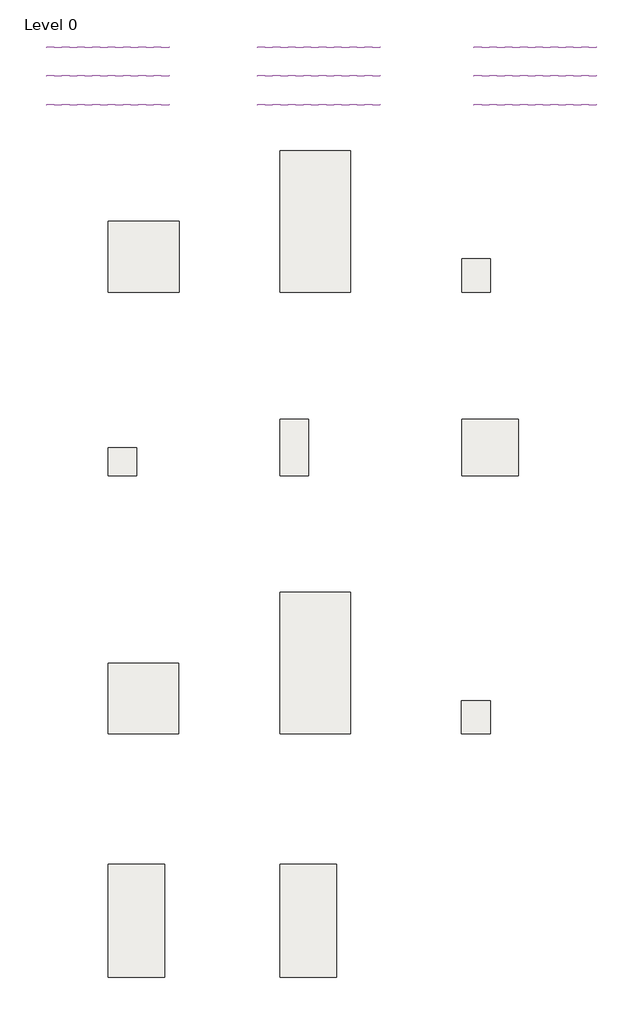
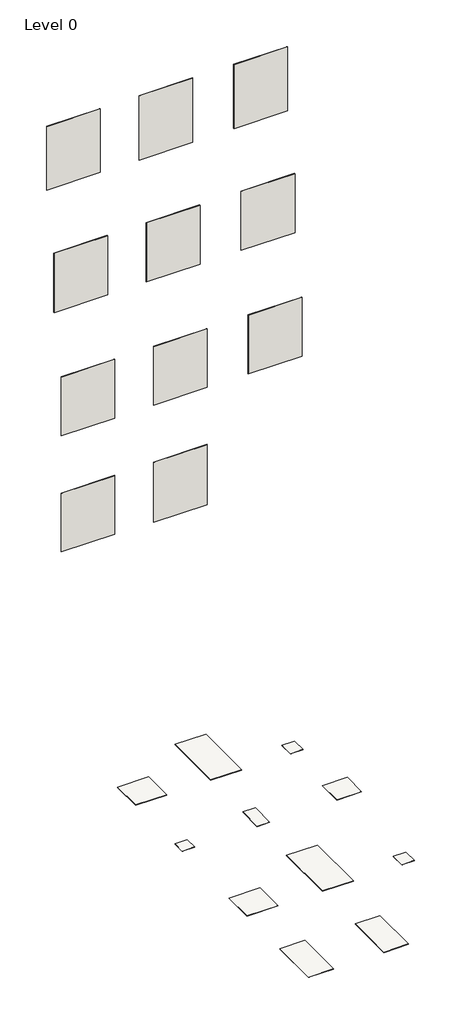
# One storey: 11 slabs, 11 walls.
"""IFC4 building model written with IfcOpenShell, lengths in millimetres."""

from ifc_helpers import new_model, si_unit, frame, origin, place, context, project, spatial, polyline, outline, extrude, element, save

model = new_model("IFC4")

# Units and contexts
model_context = context("Model", 3, world=origin())
ifc_project = project(units=[si_unit("LENGTHUNIT", "METRE", prefix="MILLI")], contexts=[model_context])

# Site, building, storey
site = spatial("IfcSite", under=ifc_project)
building = spatial("IfcBuilding", under=site)
storey = spatial("IfcBuildingStorey", under=building, Name="Level 0", Elevation=0.0)

# Slabs
placement = place(None, origin())
element("IfcSlab", 1, ObjectType="Floor_Tiles_Refin-Prestigio_Travertino-Grigio-Lucido-Mosaico-Cube 30.4x35.2 OO32", at=placement, inside=storey, context=model_context, shape_type="SweptSolid", body=[
    extrude(outline(polyline([(10631.1861419, 5891.4623743), (10631.1861419, 5539.4623743), (10327.1861419, 5539.4623743), (10327.1861419, 5891.4623743), (10631.1861419, 5891.4623743)])), frame((0.0, 0.0, -10.0), z_axis=(0.0, 0.0, 1.0), x_axis=(1.0, 0.0, 0.0)), (0.0, 0.0, 1.0), 10.0),
])
element("IfcSlab", 2, ObjectType="Floor_Tiles_Refin-Prestigio_Travertino-Grigio-Lucido-75x75 OO03", at=placement, inside=storey, context=model_context, shape_type="SweptSolid", body=[
    extrude(outline(polyline([(7324.3752062, 6289.4623743), (7324.3752062, 5539.4623743), (6574.3752062, 5539.4623743), (6574.3752062, 6289.4623743), (7324.3752062, 6289.4623743)])), frame((0.0, 0.0, -10.0), z_axis=(0.0, 0.0, 1.0), x_axis=(1.0, 0.0, 0.0)), (0.0, 0.0, 1.0), 10.0),
])
element("IfcSlab", 3, ObjectType="Floor_Tiles_Refin-Prestigio_Travertino-Grigio-Soft-60x60 OO06", at=placement, inside=storey, context=model_context, shape_type="SweptSolid", body=[
    extrude(outline(polyline([(10927.1861419, 4189.4623743), (10927.1861419, 3589.4623743), (10327.1861419, 3589.4623743), (10327.1861419, 4189.4623743), (10927.1861419, 4189.4623743)])), frame((0.0, 0.0, -10.0), z_axis=(0.0, 0.0, 1.0), x_axis=(1.0, 0.0, 0.0)), (0.0, 0.0, 1.0), 10.0),
])
element("IfcSlab", 4, ObjectType="Floor_Tiles_Refin-Prestigio_Travertino-Grigio-Soft-30x60 OO09", at=placement, inside=storey, context=model_context, shape_type="SweptSolid", body=[
    extrude(outline(polyline([(8697.3924055, 4189.4623743), (8697.3924055, 3589.4623743), (8397.3924055, 3589.4623743), (8397.3924055, 4189.4623743), (8697.3924055, 4189.4623743)])), frame((0.0, 0.0, -10.0), z_axis=(0.0, 0.0, 1.0), x_axis=(1.0, 0.0, 0.0)), (0.0, 0.0, 1.0), 10.0),
])
element("IfcSlab", 5, ObjectType="Floor_Tiles_Refin-Prestigio_Travertino-Grigio-Lucido-Mosaico-T 30x30 OO38", at=placement, inside=storey, context=model_context, shape_type="SweptSolid", body=[
    extrude(outline(polyline([(6874.3752062, 3889.4623743), (6874.3752062, 3589.4623743), (6574.3752062, 3589.4623743), (6574.3752062, 3889.4623743), (6874.3752062, 3889.4623743)])), frame((0.0, 0.0, -10.0), z_axis=(0.0, 0.0, 1.0), x_axis=(1.0, 0.0, 0.0)), (0.0, 0.0, 1.0), 10.0),
])
element("IfcSlab", 6, ObjectType="Floor_Tiles_Refin-Prestigio_Travertino-Grigio-Soft-75x75 OO00", at=placement, inside=storey, context=model_context, shape_type="SweptSolid", body=[
    extrude(outline(polyline([(7322.6009331, 1603.4367235), (7322.6009331, 853.4367235), (6572.6009331, 853.4367235), (6572.6009331, 1603.4367235), (7322.6009331, 1603.4367235)])), frame((0.0, 0.0, -10.0), z_axis=(0.0, 0.0, 1.0), x_axis=(1.0, 0.0, 0.0)), (0.0, 0.0, 1.0), 10.0),
])
element("IfcSlab", 7, ObjectType="Floor_Tiles_Refin-Prestigio_Travertino-Grigio-Soft-75x150 OM88", at=placement, inside=storey, context=model_context, shape_type="SweptSolid", body=[
    extrude(outline(polyline([(9147.3924055, 7038.4192064), (9147.3924055, 5538.4192064), (8397.3924055, 5538.4192064), (8397.3924055, 7038.4192064), (9147.3924055, 7038.4192064)])), frame((0.0, 0.0, -10.0), z_axis=(0.0, 0.0, 1.0), x_axis=(1.0, 0.0, 0.0)), (0.0, 0.0, 1.0), 10.0),
])
element("IfcSlab", 8, ObjectType="Floor_Tiles_Refin-Prestigio_Travertino-Grigio-Soft-75x150 OM85", at=placement, inside=storey, context=model_context, shape_type="SweptSolid", body=[
    extrude(outline(polyline([(9145.6181323, 2353.4367235), (9145.6181323, 853.4367235), (8395.6181323, 853.4367235), (8395.6181323, 2353.4367235), (9145.6181323, 2353.4367235)])), frame((0.0, 0.0, -10.0), z_axis=(0.0, 0.0, 1.0), x_axis=(1.0, 0.0, 0.0)), (0.0, 0.0, 1.0), 10.0),
])
element("IfcSlab", 9, ObjectType="Floor_Tiles_Refin-Prestigio_Travertino-Grigio-Soft-Mosaico-Cube 30.4x35.2 OO35", at=placement, inside=storey, context=model_context, shape_type="SweptSolid", body=[
    extrude(outline(polyline([(10629.4118688, 1205.4367235), (10629.4118688, 853.4367235), (10325.4118688, 853.4367235), (10325.4118688, 1205.4367235), (10629.4118688, 1205.4367235)])), frame((0.0, 0.0, -10.0), z_axis=(0.0, 0.0, 1.0), x_axis=(1.0, 0.0, 0.0)), (0.0, 0.0, 1.0), 10.0),
])
element("IfcSlab", 10, ObjectType="Floor_Tiles_Refin-Prestigio_Travertino-Grigio-Soft-60x120 OZ37", at=placement, inside=storey, context=model_context, shape_type="SweptSolid", body=[
    extrude(outline(polyline([(7172.6009331, -532.5889273), (7172.6009331, -1732.5889273), (6572.6009331, -1732.5889273), (6572.6009331, -532.5889273), (7172.6009331, -532.5889273)])), frame((0.0, 0.0, -10.0), z_axis=(0.0, 0.0, 1.0), x_axis=(1.0, 0.0, 0.0)), (0.0, 0.0, 1.0), 10.0),
])
element("IfcSlab", 11, ObjectType="Floor_Tiles_Refin-Prestigio_Travertino-Dorico-Grigio-60x120 RK80", at=placement, inside=storey, context=model_context, shape_type="SweptSolid", body=[
    extrude(outline(polyline([(8995.6181323, -532.5889273), (8995.6181323, -1732.5889273), (8395.6181323, -1732.5889273), (8395.6181323, -532.5889273), (8995.6181323, -532.5889273)])), frame((0.0, 0.0, -10.0), z_axis=(0.0, 0.0, 1.0), x_axis=(1.0, 0.0, 0.0)), (0.0, 0.0, 1.0), 10.0),
])

# Walls
element("IfcWall", 12, ObjectType="Floor_Tiles_Refin-Prestigio_Travertino-Grigio-Lucido-75x150 OM88", at=placement, inside=storey, context=model_context, shape_type="SweptSolid", body=[
    extrude(outline(polyline([(9457.3752062, 8132.3838631), (8157.3752062, 8132.3838631), (8157.3752062, 8142.3838631), (9457.3752062, 8142.3838631), (9457.3752062, 8132.3838631)])), frame((0.0, 0.0, 14387.6770443), z_axis=(0.0, 0.0, 1.0), x_axis=(1.0, 0.0, 0.0)), (0.0, 0.0, 1.0), 1641.7417352),
])
element("IfcWall", 13, ObjectType="Floor_Tiles_Refin-Prestigio_Travertino-Grigio-Lucido-Mosaico-Cube 30.4x35.2 OO32", at=placement, inside=storey, context=model_context, shape_type="SweptSolid", body=[
    extrude(outline(polyline([(11757.3752062, 8132.3838631), (10457.3752062, 8132.3838631), (10457.3752062, 8142.3838631), (11757.3752062, 8142.3838631), (11757.3752062, 8132.3838631)])), frame((0.0, 0.0, 14387.6770443), z_axis=(0.0, 0.0, 1.0), x_axis=(1.0, 0.0, 0.0)), (0.0, 0.0, 1.0), 1641.7417352),
])
element("IfcWall", 14, ObjectType="Floor_Tiles_Refin-Prestigio_Travertino-Grigio-Lucido-75x75 OO03", at=placement, inside=storey, context=model_context, shape_type="SweptSolid", body=[
    extrude(outline(polyline([(7217.3752062, 8132.3838631), (5917.3752062, 8132.3838631), (5917.3752062, 8142.3838631), (7217.3752062, 8142.3838631), (7217.3752062, 8132.3838631)])), frame((0.0, 0.0, 14403.7267346), z_axis=(0.0, 0.0, 1.0), x_axis=(1.0, 0.0, 0.0)), (0.0, 0.0, 1.0), 1625.692045),
])
element("IfcWall", 15, ObjectType="Floor_Tiles_Refin-Prestigio_Travertino-Grigio-Lucido-Mosaico-T 30x30 OO38", at=placement, inside=storey, context=model_context, shape_type="SweptSolid", body=[
    extrude(outline(polyline([(7217.3752062, 7827.3838631), (5917.3752062, 7827.3838631), (5917.3752062, 7837.3838631), (7217.3752062, 7837.3838631), (7217.3752062, 7827.3838631)])), frame((0.0, 0.0, 11452.5436262), z_axis=(0.0, 0.0, 1.0), x_axis=(1.0, 0.0, 0.0)), (0.0, 0.0, 1.0), 1513.1985566),
])
element("IfcWall", 16, ObjectType="Floor_Tiles_Refin-Prestigio_Travertino-Grigio-Soft-30x60 OO09", at=placement, inside=storey, context=model_context, shape_type="SweptSolid", body=[
    extrude(outline(polyline([(9457.3752062, 7827.3838631), (8157.3752062, 7827.3838631), (8157.3752062, 7837.3838631), (9457.3752062, 7837.3838631), (9457.3752062, 7827.3838631)])), frame((0.0, 0.0, 11452.5436262), z_axis=(0.0, 0.0, 1.0), x_axis=(1.0, 0.0, 0.0)), (0.0, 0.0, 1.0), 1513.1985566),
])
element("IfcWall", 17, ObjectType="Floor_Tiles_Refin-Prestigio_Travertino-Grigio-Soft-60x60 OO06", at=placement, inside=storey, context=model_context, shape_type="SweptSolid", body=[
    extrude(outline(polyline([(11757.3752062, 7827.3838631), (10457.3752062, 7827.3838631), (10457.3752062, 7837.3838631), (11757.3752062, 7837.3838631), (11757.3752062, 7827.3838631)])), frame((0.0, 0.0, 11452.5436262), z_axis=(0.0, 0.0, 1.0), x_axis=(1.0, 0.0, 0.0)), (0.0, 0.0, 1.0), 1513.1985566),
])
element("IfcWall", 18, ObjectType="Floor_Tiles_Refin-Prestigio_Travertino-Grigio-Soft-75x75 OO00", at=placement, inside=storey, context=model_context, shape_type="SweptSolid", body=[
    extrude(outline(polyline([(7217.3752062, 7522.3838631), (5917.3752062, 7522.3838631), (5917.3752062, 7532.3838631), (7217.3752062, 7532.3838631), (7217.3752062, 7522.3838631)])), frame((0.0, 0.0, 8479.1027214), z_axis=(0.0, 0.0, 1.0), x_axis=(1.0, 0.0, 0.0)), (0.0, 0.0, 1.0), 1502.5740159),
])
element("IfcWall", 19, ObjectType="Floor_Tiles_Refin-Prestigio_Travertino-Grigio-Soft-75x150 OM85", at=placement, inside=storey, context=model_context, shape_type="SweptSolid", body=[
    extrude(outline(polyline([(9457.3752062, 7522.3838631), (8157.3752062, 7522.3838631), (8157.3752062, 7532.3838631), (9457.3752062, 7532.3838631), (9457.3752062, 7522.3838631)])), frame((0.0, 0.0, 8479.1027214), z_axis=(0.0, 0.0, 1.0), x_axis=(1.0, 0.0, 0.0)), (0.0, 0.0, 1.0), 1502.5740159),
])
element("IfcWall", 20, ObjectType="Floor_Tiles_Refin-Prestigio_Travertino-Grigio-Soft-Mosaico-Cube 30.4x35.2 OO35", at=placement, inside=storey, context=model_context, shape_type="SweptSolid", body=[
    extrude(outline(polyline([(11757.3752062, 7522.3838631), (10457.3752062, 7522.3838631), (10457.3752062, 7532.3838631), (11757.3752062, 7532.3838631), (11757.3752062, 7522.3838631)])), frame((0.0, 0.0, 8479.1027214), z_axis=(0.0, 0.0, 1.0), x_axis=(1.0, 0.0, 0.0)), (0.0, 0.0, 1.0), 1502.5740159),
])
element("IfcWall", 21, ObjectType="Floor_Tiles_Refin-Prestigio_Travertino-Grigio-Soft-60x120 OZ37", at=placement, inside=storey, context=model_context, shape_type="SweptSolid", body=[
    extrude(outline(polyline([(5917.3752062, 7532.3838631), (7217.3752062, 7532.3838631), (7217.3752062, 7522.3838631), (5917.3752062, 7522.3838631), (5917.3752062, 7532.3838631)])), frame((0.0, 0.0, 5505.6618166), z_axis=(0.0, 0.0, 1.0), x_axis=(1.0, 0.0, 0.0)), (0.0, 0.0, 1.0), 1502.5740159),
])
element("IfcWall", 22, ObjectType="Floor_Tiles_Refin-Prestigio_Travertino-Dorico-Grigio-60x120 RK80", at=placement, inside=storey, context=model_context, shape_type="SweptSolid", body=[
    extrude(outline(polyline([(8157.3752062, 7532.3838631), (9457.3752062, 7532.3838631), (9457.3752062, 7522.3838631), (8157.3752062, 7522.3838631), (8157.3752062, 7532.3838631)])), frame((0.0, 0.0, 5477.3941333), z_axis=(0.0, 0.0, 1.0), x_axis=(1.0, 0.0, 0.0)), (0.0, 0.0, 1.0), 1539.1420278),
])

save(model, "model.ifc")
